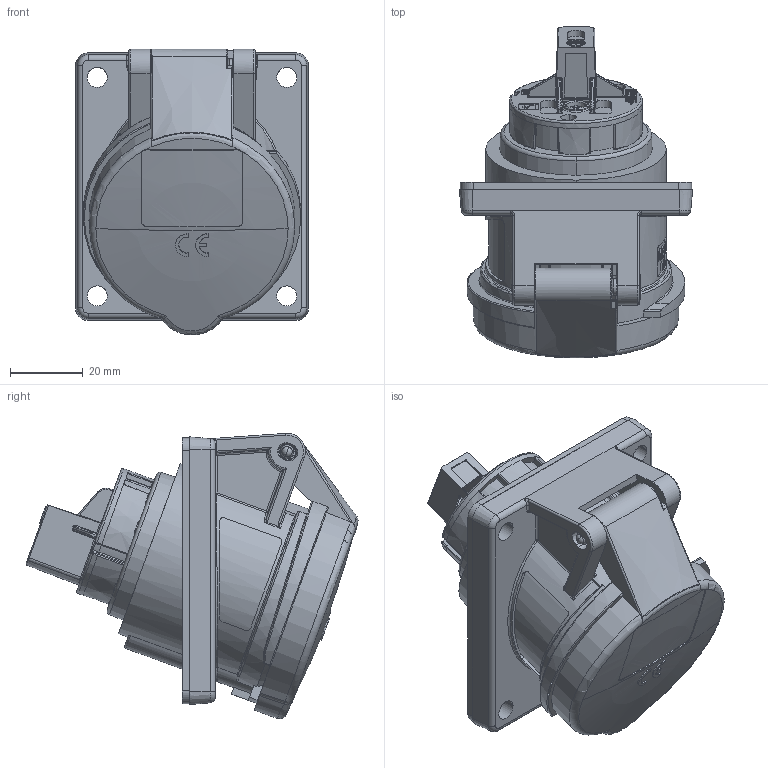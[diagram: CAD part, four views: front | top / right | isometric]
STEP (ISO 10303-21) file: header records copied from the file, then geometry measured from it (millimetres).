
FILE_DESCRIPTION((''),'2;1');
FILE_NAME('1463_SW0001','2019-08-16T07:55:16',('kremer'),('MENNEKES'),'CREO PARAMETRIC BY PTC INC, 2018260','CREO PARAMETRIC BY PTC INC, 2018260','');
FILE_SCHEMA(('AUTOMOTIVE_DESIGN { 1 0 10303 214 1 1 1 1 }'));
Length unit declared in the file: millimetre
Products named in the file (1): 1463_SW0001
Bounding box: 64 x 91.15 x 78.46 mm (x, y, z)
Volume: 158305.2 mm3; surface area: 29848.7 mm2
Topology: 1 solids, 1 shells, 1869 faces, 5086 edges, 3287 vertices
Faces by surface type: plane 1313, cylinder 263, bspline 163, torus 64, cone 49, sphere 13, extrusion 4
Entity records: 81515 total; most frequent: CARTESIAN_POINT 23440, ORIENTED_EDGE 10156, DIRECTION 7999, EDGE_CURVE 5078, VERTEX_POINT 3287, VECTOR 2991, LINE 2987, AXIS2_PLACEMENT_3D 2504
